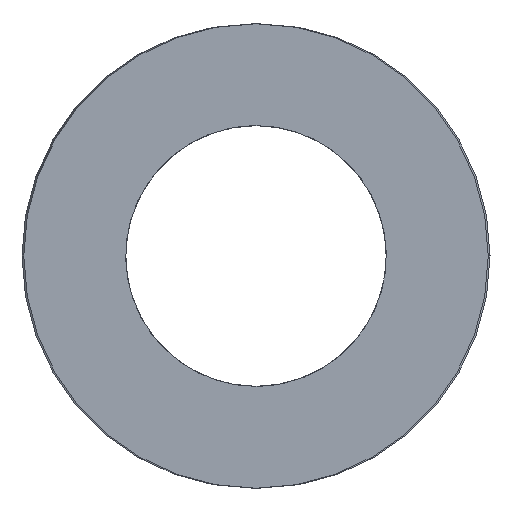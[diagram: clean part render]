
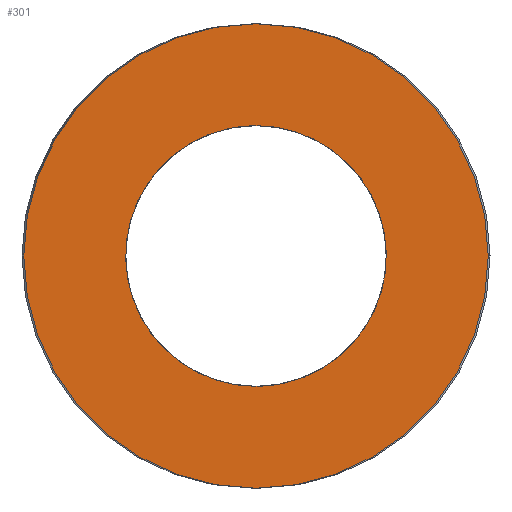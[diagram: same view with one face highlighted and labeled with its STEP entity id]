
A CAD part, left-side view. The second image highlights one B-rep face of the part: STEP entity #301.
In plain terms, the highlighted planar face has unit normal (-1, 0, 0).
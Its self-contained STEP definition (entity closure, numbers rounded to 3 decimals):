
#63=CARTESIAN_POINT('Vertex',(0.,15.5,0.)) ;
#77=CARTESIAN_POINT('Vertex',(0.,-15.5,0.)) ;
#80=CARTESIAN_POINT('Axis2P3D Location',(0.,0.,0.)) ;
#97=CARTESIAN_POINT('Axis2P3D Location',(0.,0.,0.)) ;
#232=CARTESIAN_POINT('Axis2P3D Location',(0.,7.75,0.)) ;
#242=CARTESIAN_POINT('Control Point',(0.,0.,-8.7)) ;
#243=CARTESIAN_POINT('Control Point',(0.,0.867,-8.7)) ;
#244=CARTESIAN_POINT('Control Point',(0.,1.734,-8.592)) ;
#245=CARTESIAN_POINT('Control Point',(0.,2.583,-8.376)) ;
#246=CARTESIAN_POINT('Control Point',(0.,4.209,-7.737)) ;
#247=CARTESIAN_POINT('Control Point',(0.,5.629,-6.719)) ;
#248=CARTESIAN_POINT('Control Point',(0.,6.272,-6.123)) ;
#249=CARTESIAN_POINT('Control Point',(0.,7.395,-4.785)) ;
#250=CARTESIAN_POINT('Control Point',(0.,8.156,-3.211)) ;
#251=CARTESIAN_POINT('Control Point',(0.,8.436,-2.381)) ;
#252=CARTESIAN_POINT('Control Point',(0.,8.783,-0.669)) ;
#253=CARTESIAN_POINT('Control Point',(0.,8.699,1.077)) ;
#254=CARTESIAN_POINT('Control Point',(0.,8.548,1.94)) ;
#255=CARTESIAN_POINT('Control Point',(0.,8.034,3.61)) ;
#256=CARTESIAN_POINT('Control Point',(0.,7.127,5.103)) ;
#257=CARTESIAN_POINT('Control Point',(0.,6.581,5.789)) ;
#258=CARTESIAN_POINT('Control Point',(0.,5.332,7.011)) ;
#259=CARTESIAN_POINT('Control Point',(0.,3.821,7.888)) ;
#260=CARTESIAN_POINT('Control Point',(0.,3.015,8.231)) ;
#261=CARTESIAN_POINT('Control Point',(0.,1.918,8.541)) ;
#262=CARTESIAN_POINT('Control Point',(0.,0.793,8.67)) ;
#263=CARTESIAN_POINT('Control Point',(0.,0.529,8.69)) ;
#264=CARTESIAN_POINT('Control Point',(0.,0.264,8.7)) ;
#265=CARTESIAN_POINT('Control Point',(0.,0.,8.7)) ;
#266=CARTESIAN_POINT('Vertex',(0.,0.,-8.7)) ;
#268=CARTESIAN_POINT('Vertex',(0.,0.,8.7)) ;
#272=CARTESIAN_POINT('Control Point',(0.,0.,8.7)) ;
#273=CARTESIAN_POINT('Control Point',(0.,-0.867,8.7)) ;
#274=CARTESIAN_POINT('Control Point',(0.,-1.734,8.592)) ;
#275=CARTESIAN_POINT('Control Point',(0.,-2.583,8.376)) ;
#276=CARTESIAN_POINT('Control Point',(0.,-4.209,7.737)) ;
#277=CARTESIAN_POINT('Control Point',(0.,-5.629,6.719)) ;
#278=CARTESIAN_POINT('Control Point',(0.,-6.272,6.123)) ;
#279=CARTESIAN_POINT('Control Point',(0.,-7.395,4.785)) ;
#280=CARTESIAN_POINT('Control Point',(0.,-8.156,3.211)) ;
#281=CARTESIAN_POINT('Control Point',(0.,-8.436,2.381)) ;
#282=CARTESIAN_POINT('Control Point',(0.,-8.783,0.669)) ;
#283=CARTESIAN_POINT('Control Point',(0.,-8.699,-1.077)) ;
#284=CARTESIAN_POINT('Control Point',(0.,-8.548,-1.94)) ;
#285=CARTESIAN_POINT('Control Point',(0.,-8.034,-3.61)) ;
#286=CARTESIAN_POINT('Control Point',(0.,-7.127,-5.103)) ;
#287=CARTESIAN_POINT('Control Point',(0.,-6.581,-5.789)) ;
#288=CARTESIAN_POINT('Control Point',(0.,-5.332,-7.011)) ;
#289=CARTESIAN_POINT('Control Point',(0.,-3.821,-7.888)) ;
#290=CARTESIAN_POINT('Control Point',(0.,-3.015,-8.231)) ;
#291=CARTESIAN_POINT('Control Point',(0.,-1.918,-8.541)) ;
#292=CARTESIAN_POINT('Control Point',(0.,-0.793,-8.67)) ;
#293=CARTESIAN_POINT('Control Point',(0.,-0.529,-8.69)) ;
#294=CARTESIAN_POINT('Control Point',(0.,-0.264,-8.7)) ;
#295=CARTESIAN_POINT('Control Point',(0.,0.,-8.7)) ;
#81=DIRECTION('Axis2P3D Direction',(1.,-0.,0.)) ;
#98=DIRECTION('Axis2P3D Direction',(1.,-0.,0.)) ;
#233=DIRECTION('Axis2P3D Direction',(-1.,0.,0.)) ;
#234=DIRECTION('Axis2P3D XDirection',(0.,1.,0.)) ;
#82=AXIS2_PLACEMENT_3D('Circle Axis2P3D',#80,#81,$) ;
#99=AXIS2_PLACEMENT_3D('Circle Axis2P3D',#97,#98,$) ;
#235=AXIS2_PLACEMENT_3D('Plane Axis2P3D',#232,#233,#234) ;
#238=ORIENTED_EDGE('',*,*,#84,.T.) ;
#239=ORIENTED_EDGE('',*,*,#101,.T.) ;
#298=ORIENTED_EDGE('',*,*,#270,.T.) ;
#299=ORIENTED_EDGE('',*,*,#296,.T.) ;
#300=FACE_BOUND('',#297,.T.) ;
#301=ADVANCED_FACE('392-B32-203',(#240,#300),#236,.T.) ;
#241=B_SPLINE_CURVE_WITH_KNOTS('',5,(#242,#243,#244,#245,#246,#247,#248,#249,#250,#251,#252,#253,#254,#255,#256,#257,#258,#259,#260,#261,#262,#263,#264,#265),.UNSPECIFIED.,.F.,.U.,(6,3,3,3,3,3,3,6),(0.,6.131,12.261,18.392,24.522,30.653,36.783,38.652),.UNSPECIFIED.) ;
#271=B_SPLINE_CURVE_WITH_KNOTS('',5,(#272,#273,#274,#275,#276,#277,#278,#279,#280,#281,#282,#283,#284,#285,#286,#287,#288,#289,#290,#291,#292,#293,#294,#295),.UNSPECIFIED.,.F.,.U.,(6,3,3,3,3,3,3,6),(0.,6.131,12.261,18.392,24.522,30.653,36.783,38.652),.UNSPECIFIED.) ;
#83=CIRCLE('generated circle',#82,15.5) ;
#100=CIRCLE('generated circle',#99,15.5) ;
#84=EDGE_CURVE('',#64,#78,#83,.F.) ;
#101=EDGE_CURVE('',#78,#64,#100,.F.) ;
#270=EDGE_CURVE('',#267,#269,#241,.T.) ;
#296=EDGE_CURVE('',#269,#267,#271,.T.) ;
#237=EDGE_LOOP('',(#238,#239)) ;
#297=EDGE_LOOP('',(#298,#299)) ;
#240=FACE_OUTER_BOUND('',#237,.T.) ;
#236=PLANE('Plane',#235) ;
#64=VERTEX_POINT('',#63) ;
#78=VERTEX_POINT('',#77) ;
#267=VERTEX_POINT('',#266) ;
#269=VERTEX_POINT('',#268) ;
